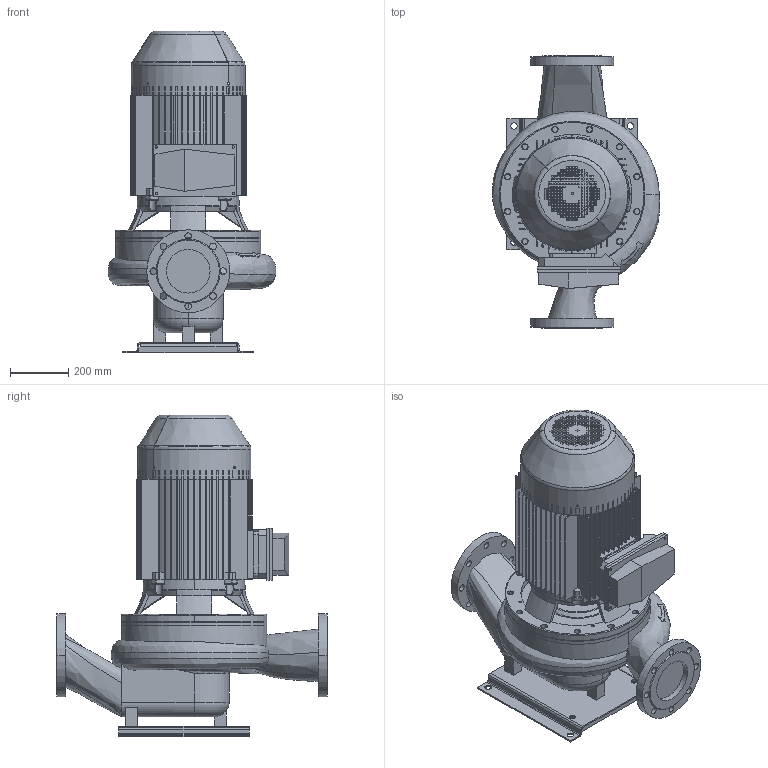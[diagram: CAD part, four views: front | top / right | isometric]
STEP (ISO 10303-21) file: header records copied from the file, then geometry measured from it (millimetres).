
FILE_DESCRIPTION(('STEP AP214'),'1');
FILE_NAME('export.stp','2018-06-06T11:03:20',(' '),(' '),'Spatial InterOp 3D',' ',' ');
FILE_SCHEMA(('AUTOMOTIVE_DESIGN { 1 0 10303 214 1 1 1 1 }'));
Length unit declared in the file: millimetre
Products named in the file (13): W_L150S4300-KP205; W_L_150S_pump_new; R200363; R200118; V_MKP205-K2-F41; R200144; R200138; R200137; R201182; V_TLL125SAL1250; P100464; P100462; P101191
Assembly tree (13 placements, depth 4):
  W_L150S4300-KP205
    W_L_150S_pump_new
    V_MKP205-K2-F41
      R200363
        R200118
      R200144
      R200138
      R200137
      R201182
    V_TLL125SAL1250
    P100464
      P100462
      P101191  x2
Bounding box: 576.03 x 935 x 1104.5 mm (x, y, z)
Volume: 73666483.5 mm3; surface area: 6277343.2 mm2
Topology: 10 solids, 10 shells, 2062 faces, 5953 edges, 3899 vertices
Faces by surface type: plane 1349, cylinder 461, torus 104, bspline 92, cone 48, sphere 8
Entity records: 114749 total; most frequent: CARTESIAN_POINT 25009, ORIENTED_EDGE 11694, DIRECTION 10443, STYLED_ITEM 5913, PRESENTATION_STYLE_ASSIGNMENT 5913, COLOUR_RGB 5913, EDGE_CURVE 5847, LINE 4139
